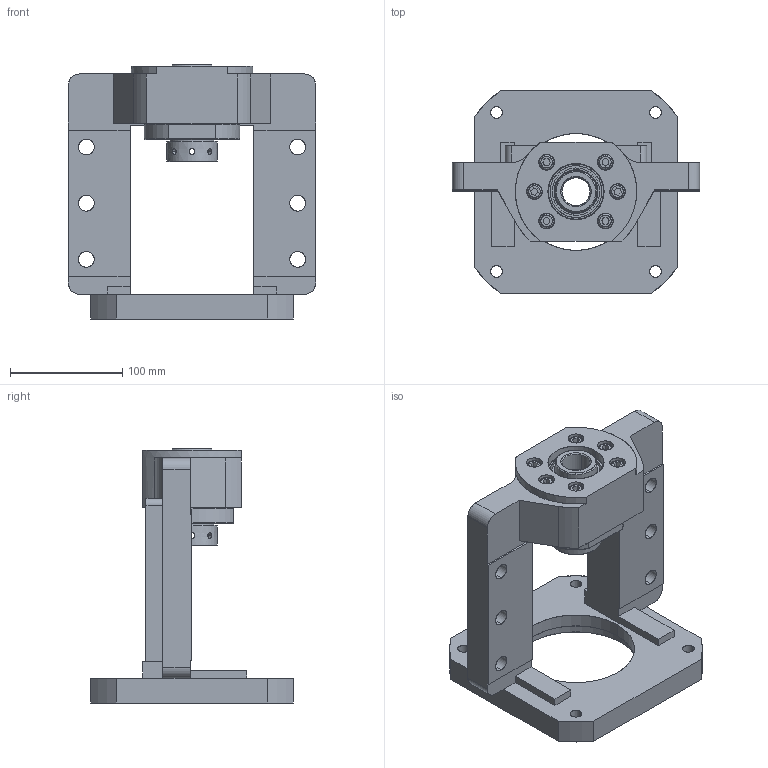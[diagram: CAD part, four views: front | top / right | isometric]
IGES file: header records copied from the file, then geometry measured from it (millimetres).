
Start section: SolidWorks IGES file using analytic representation for surfaces
Global section: file name: C:\Users\044\Desktop\快捷\MBCS25L-H.IGS,1; native system: 5HSolidWorks 2018; preprocessor: SolidWorks 2018; author: 044; date: 241016.084628; units: millimetre
Bounding box: 220 x 180 x 226 mm (x, y, z)
Surface area: 213554.7 mm2 (no closed solid volume)
Topology: 0 solids, 0 shells, 338 faces, 5844 edges, 5836 vertices
Faces by surface type: revolution 195, bspline 143
